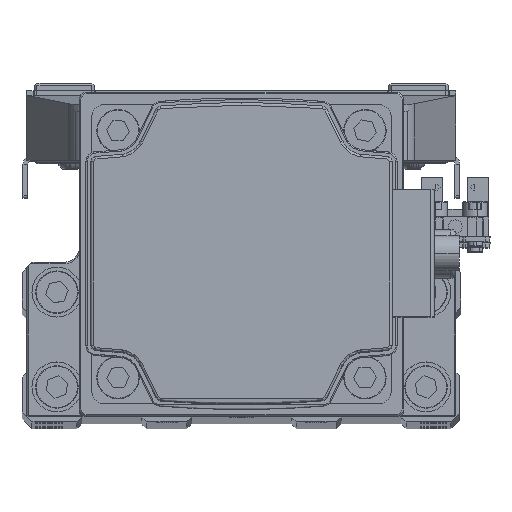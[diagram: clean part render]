
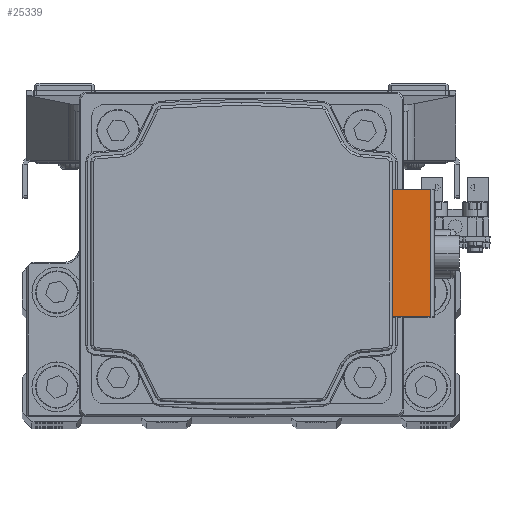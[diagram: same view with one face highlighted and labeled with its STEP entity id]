
A CAD part, top view. The second image highlights one B-rep face of the part: STEP entity #25339.
In plain terms, the highlighted planar face has unit normal (0, 0, 1) as drawn and (0, 0, -1) by its records, which use the part's own axes.
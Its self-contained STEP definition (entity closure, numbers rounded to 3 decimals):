
#143 = PLANE ( 'NONE',  #44171 ) ;
#305 = CARTESIAN_POINT ( 'NONE',  ( -12.75, 37.9, -88.696 ) ) ;
#527 = VECTOR ( 'NONE', #37183, 1000. ) ;
#1263 = CARTESIAN_POINT ( 'NONE',  ( 12.75, 30.2, -88.696 ) ) ;
#1931 = DIRECTION ( 'NONE',  ( 0., 1., 0. ) ) ;
#2605 = VERTEX_POINT ( 'NONE', #37993 ) ;
#5597 = ORIENTED_EDGE ( 'NONE', *, *, #36540, .T. ) ;
#7162 = LINE ( 'NONE', #22105, #33432 ) ;
#7286 = LINE ( 'NONE', #22233, #527 ) ;
#7814 = EDGE_CURVE ( 'NONE', #27633, #16049, #20566, .T. ) ;
#8455 = CARTESIAN_POINT ( 'NONE',  ( 0., 37.9, -88.696 ) ) ;
#9389 = CARTESIAN_POINT ( 'NONE',  ( 12.75, 37.9, -88.696 ) ) ;
#10399 = VECTOR ( 'NONE', #23406, 1000. ) ;
#15096 = CARTESIAN_POINT ( 'NONE',  ( 0., 37.9, -88.696 ) ) ;
#16049 = VERTEX_POINT ( 'NONE', #9389 ) ;
#19575 = ORIENTED_EDGE ( 'NONE', *, *, #21190, .F. ) ;
#20566 = LINE ( 'NONE', #35513, #42445 ) ;
#21190 = EDGE_CURVE ( 'NONE', #2605, #27633, #7162, .T. ) ;
#22105 = CARTESIAN_POINT ( 'NONE',  ( 18.438, 30.2, -88.696 ) ) ;
#22233 = CARTESIAN_POINT ( 'NONE',  ( -12.75, 37.9, -88.696 ) ) ;
#23406 = DIRECTION ( 'NONE',  ( 1., 0., 0. ) ) ;
#25339 = ADVANCED_FACE ( 'NONE', ( #33722 ), #143, .T. ) ;
#27633 = VERTEX_POINT ( 'NONE', #1263 ) ;
#30048 = DIRECTION ( 'NONE',  ( 0., 0., -1. ) ) ;
#32074 = EDGE_LOOP ( 'NONE', ( #5597, #36154, #35528, #19575 ) ) ;
#32367 = VERTEX_POINT ( 'NONE', #305 ) ;
#33432 = VECTOR ( 'NONE', #37051, 1000. ) ;
#33722 = FACE_OUTER_BOUND ( 'NONE', #32074, .T. ) ;
#35513 = CARTESIAN_POINT ( 'NONE',  ( 12.75, 33.991, -88.696 ) ) ;
#35528 = ORIENTED_EDGE ( 'NONE', *, *, #7814, .F. ) ;
#36154 = ORIENTED_EDGE ( 'NONE', *, *, #45797, .T. ) ;
#36540 = EDGE_CURVE ( 'NONE', #2605, #32367, #7286, .T. ) ;
#37051 = DIRECTION ( 'NONE',  ( 1., 0., 0. ) ) ;
#37183 = DIRECTION ( 'NONE',  ( 0., 1., 0. ) ) ;
#37993 = CARTESIAN_POINT ( 'NONE',  ( -12.75, 30.2, -88.696 ) ) ;
#42031 = LINE ( 'NONE', #8455, #10399 ) ;
#42445 = VECTOR ( 'NONE', #1931, 1000. ) ;
#44171 = AXIS2_PLACEMENT_3D ( 'NONE', #15096, #30048, #45026 ) ;
#45026 = DIRECTION ( 'NONE',  ( -1., 0., 0. ) ) ;
#45797 = EDGE_CURVE ( 'NONE', #32367, #16049, #42031, .T. ) ;
